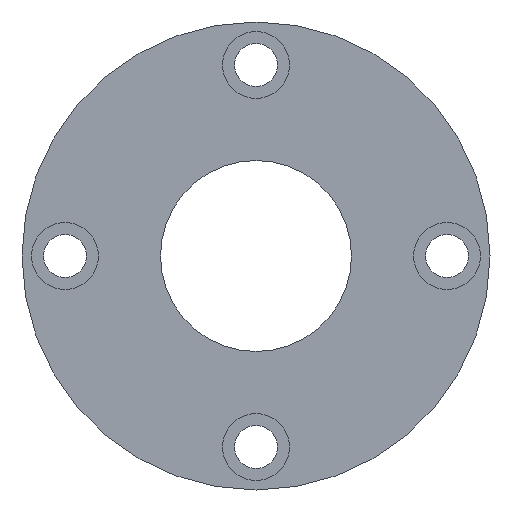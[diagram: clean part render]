
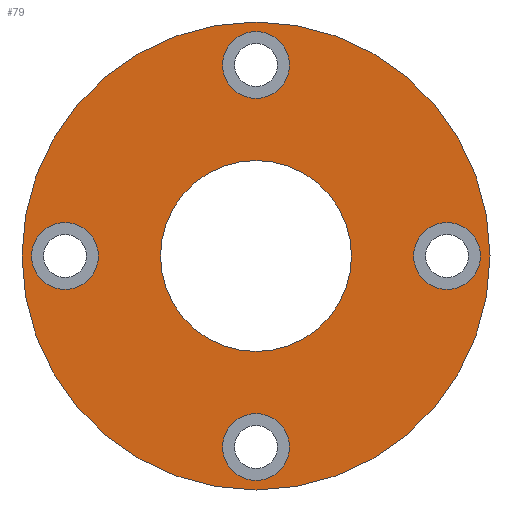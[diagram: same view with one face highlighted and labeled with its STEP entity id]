
A CAD part, left-side view. The second image highlights one B-rep face of the part: STEP entity #79.
In plain terms, the highlighted planar face has unit normal (-1, 0, 0).
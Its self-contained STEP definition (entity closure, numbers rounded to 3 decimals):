
#79 = ADVANCED_FACE( '', ( #110, #111, #112, #113, #114, #115 ), #116, .T. );
#110 = FACE_BOUND( '', #172, .T. );
#111 = FACE_BOUND( '', #173, .T. );
#112 = FACE_BOUND( '', #174, .T. );
#113 = FACE_BOUND( '', #175, .T. );
#114 = FACE_BOUND( '', #176, .T. );
#115 = FACE_OUTER_BOUND( '', #177, .T. );
#116 = PLANE( '', #178 );
#172 = EDGE_LOOP( '', ( #242 ) );
#173 = EDGE_LOOP( '', ( #243 ) );
#174 = EDGE_LOOP( '', ( #244 ) );
#175 = EDGE_LOOP( '', ( #245 ) );
#176 = EDGE_LOOP( '', ( #246 ) );
#177 = EDGE_LOOP( '', ( #247 ) );
#178 = AXIS2_PLACEMENT_3D( '', #248, #249, #250 );
#242 = ORIENTED_EDGE( '', *, *, #324, .T. );
#243 = ORIENTED_EDGE( '', *, *, #325, .T. );
#244 = ORIENTED_EDGE( '', *, *, #326, .T. );
#245 = ORIENTED_EDGE( '', *, *, #327, .T. );
#246 = ORIENTED_EDGE( '', *, *, #328, .T. );
#247 = ORIENTED_EDGE( '', *, *, #329, .F. );
#248 = CARTESIAN_POINT( '', ( 0., 49., 0. ) );
#249 = DIRECTION( '', ( -1., 0., 0. ) );
#250 = DIRECTION( '', ( 0., 0., 1. ) );
#324 = EDGE_CURVE( '', #354, #354, #355, .T. );
#325 = EDGE_CURVE( '', #356, #356, #357, .F. );
#326 = EDGE_CURVE( '', #358, #358, #359, .T. );
#327 = EDGE_CURVE( '', #360, #360, #361, .T. );
#328 = EDGE_CURVE( '', #362, #362, #363, .T. );
#329 = EDGE_CURVE( '', #364, #364, #365, .T. );
#354 = VERTEX_POINT( '', #398 );
#355 = CIRCLE( '', #399, 20. );
#356 = VERTEX_POINT( '', #400 );
#357 = CIRCLE( '', #401, 7. );
#358 = VERTEX_POINT( '', #402 );
#359 = CIRCLE( '', #403, 7. );
#360 = VERTEX_POINT( '', #404 );
#361 = CIRCLE( '', #405, 7. );
#362 = VERTEX_POINT( '', #406 );
#363 = CIRCLE( '', #407, 7. );
#364 = VERTEX_POINT( '', #408 );
#365 = CIRCLE( '', #409, 49. );
#398 = CARTESIAN_POINT( '', ( 0., 0., -20. ) );
#399 = AXIS2_PLACEMENT_3D( '', #450, #451, #452 );
#400 = CARTESIAN_POINT( '', ( 0., 40., 7. ) );
#401 = AXIS2_PLACEMENT_3D( '', #453, #454, #455 );
#402 = CARTESIAN_POINT( '', ( 0., 0., 33. ) );
#403 = AXIS2_PLACEMENT_3D( '', #456, #457, #458 );
#404 = CARTESIAN_POINT( '', ( 0., 0., -47. ) );
#405 = AXIS2_PLACEMENT_3D( '', #459, #460, #461 );
#406 = CARTESIAN_POINT( '', ( 0., -40., -7. ) );
#407 = AXIS2_PLACEMENT_3D( '', #462, #463, #464 );
#408 = CARTESIAN_POINT( '', ( 0., 0., -49. ) );
#409 = AXIS2_PLACEMENT_3D( '', #465, #466, #467 );
#450 = CARTESIAN_POINT( '', ( 0., 0., 0. ) );
#451 = DIRECTION( '', ( 1., 0., 0. ) );
#452 = DIRECTION( '', ( 0., 0., -1. ) );
#453 = CARTESIAN_POINT( '', ( 0., 40., 0. ) );
#454 = DIRECTION( '', ( -1., 0., 0. ) );
#455 = DIRECTION( '', ( 0., 0., 1. ) );
#456 = CARTESIAN_POINT( '', ( 0., 0., 40. ) );
#457 = DIRECTION( '', ( 1., 0., 0. ) );
#458 = DIRECTION( '', ( 0., 0., -1. ) );
#459 = CARTESIAN_POINT( '', ( 0., 0., -40. ) );
#460 = DIRECTION( '', ( 1., 0., 0. ) );
#461 = DIRECTION( '', ( 0., 0., -1. ) );
#462 = CARTESIAN_POINT( '', ( 0., -40., 0. ) );
#463 = DIRECTION( '', ( 1., 0., 0. ) );
#464 = DIRECTION( '', ( 0., 0., -1. ) );
#465 = CARTESIAN_POINT( '', ( 0., 0., 0. ) );
#466 = DIRECTION( '', ( 1., 0., 0. ) );
#467 = DIRECTION( '', ( 0., 0., -1. ) );
